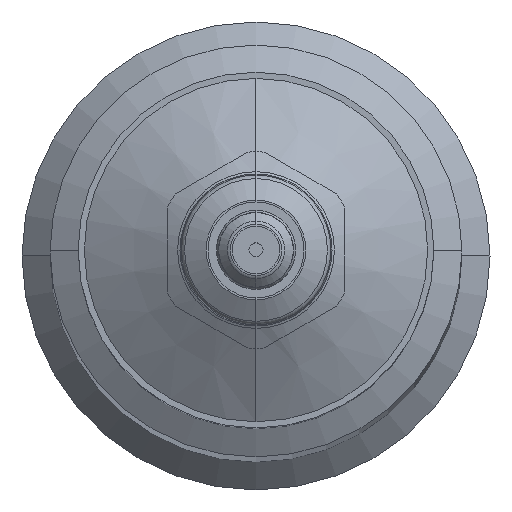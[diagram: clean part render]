
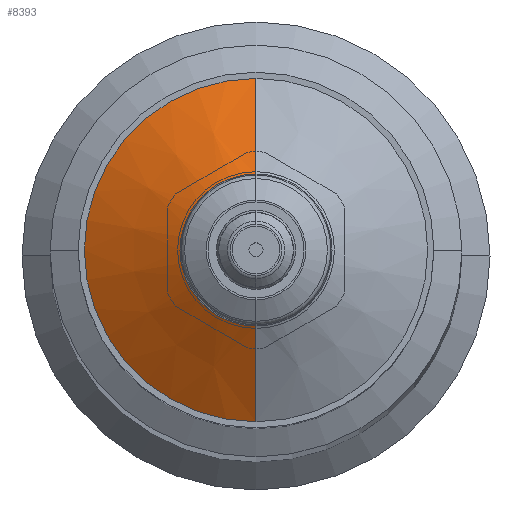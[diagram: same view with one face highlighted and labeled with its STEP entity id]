
A CAD part, top view. The second image highlights one B-rep face of the part: STEP entity #8393.
In plain terms, the highlighted conical face has half-angle 60 degrees and reference radius 38 mm.
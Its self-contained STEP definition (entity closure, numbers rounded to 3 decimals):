
#1139 = CARTESIAN_POINT ( 'NONE',  ( 0., -38., 769.238 ) ) ;
#1140 = DIRECTION ( 'NONE',  ( 0., -0.866, -0.5 ) ) ;
#1141 = CARTESIAN_POINT ( 'NONE',  ( 0., 0., 770. ) ) ;
#1142 = DIRECTION ( 'NONE',  ( 0., 0., -1. ) ) ;
#1143 = DIRECTION ( 'NONE',  ( 1., 0., 0. ) ) ;
#1144 = CARTESIAN_POINT ( 'NONE',  ( 0., 0., 781.8 ) ) ;
#1145 = DIRECTION ( 'NONE',  ( 0., 0., 1. ) ) ;
#1146 = DIRECTION ( 'NONE',  ( 0., 1., 0. ) ) ;
#1147 = CARTESIAN_POINT ( 'NONE',  ( 0., 38., 769.238 ) ) ;
#1148 = DIRECTION ( 'NONE',  ( 0., 0.866, -0.5 ) ) ;
#1885 = EDGE_CURVE ( 'NONE', #7445, #7569, #9780, .T. ) ;
#1886 = EDGE_CURVE ( 'NONE', #7569, #7594, #9783, .T. ) ;
#1887 = EDGE_CURVE ( 'NONE', #27753, #7445, #9785, .T. ) ;
#1888 = EDGE_CURVE ( 'NONE', #27753, #7594, #9784, .T. ) ;
#2618 = AXIS2_PLACEMENT_3D ( 'NONE', #3683, #3684, #3685 ) ;
#3683 = CARTESIAN_POINT ( 'NONE',  ( 0., 0., 769.238 ) ) ;
#3684 = DIRECTION ( 'NONE',  ( 0., 0., -1. ) ) ;
#3685 = DIRECTION ( 'NONE',  ( 0., -1., 0. ) ) ;
#5883 = ORIENTED_EDGE ( 'NONE', *, *, #1886, .F. ) ;
#5884 = ORIENTED_EDGE ( 'NONE', *, *, #1885, .F. ) ;
#7445 = VERTEX_POINT ( 'NONE', #27471 ) ;
#7569 = VERTEX_POINT ( 'NONE', #27504 ) ;
#7594 = VERTEX_POINT ( 'NONE', #27512 ) ;
#8393 = ADVANCED_FACE ( 'NONE', ( #8907 ), #8926, .T. ) ;
#8907 = FACE_OUTER_BOUND ( 'NONE', #10781, .T. ) ;
#8926 = CONICAL_SURFACE ( 'NONE', #2618, 38., 1.047 ) ;
#9780 = LINE ( 'NONE', #1139, #9782 ) ;
#9782 = VECTOR ( 'NONE', #1140, 1000. ) ;
#9783 = CIRCLE ( 'NONE', #34639, 36.679 ) ;
#9784 = LINE ( 'NONE', #1147, #9786 ) ;
#9785 = CIRCLE ( 'NONE', #34640, 16.241 ) ;
#9786 = VECTOR ( 'NONE', #1148, 1000. ) ;
#10781 = EDGE_LOOP ( 'NONE', ( #34758, #34757, #5883, #5884 ) ) ;
#27471 = CARTESIAN_POINT ( 'NONE',  ( 0., -16.241, 781.8 ) ) ;
#27504 = CARTESIAN_POINT ( 'NONE',  ( 0., -36.679, 770. ) ) ;
#27512 = CARTESIAN_POINT ( 'NONE',  ( 0., 36.679, 770. ) ) ;
#27753 = VERTEX_POINT ( 'NONE', #30133 ) ;
#30133 = CARTESIAN_POINT ( 'NONE',  ( 0., 16.241, 781.8 ) ) ;
#34639 = AXIS2_PLACEMENT_3D ( 'NONE', #1141, #1142, #1143 ) ;
#34640 = AXIS2_PLACEMENT_3D ( 'NONE', #1144, #1145, #1146 ) ;
#34757 = ORIENTED_EDGE ( 'NONE', *, *, #1888, .T. ) ;
#34758 = ORIENTED_EDGE ( 'NONE', *, *, #1887, .F. ) ;
